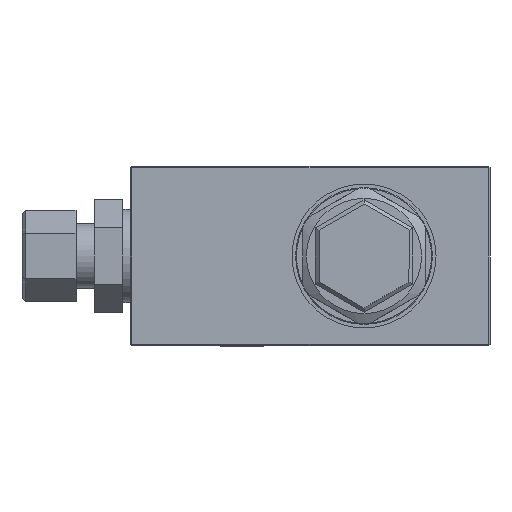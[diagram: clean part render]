
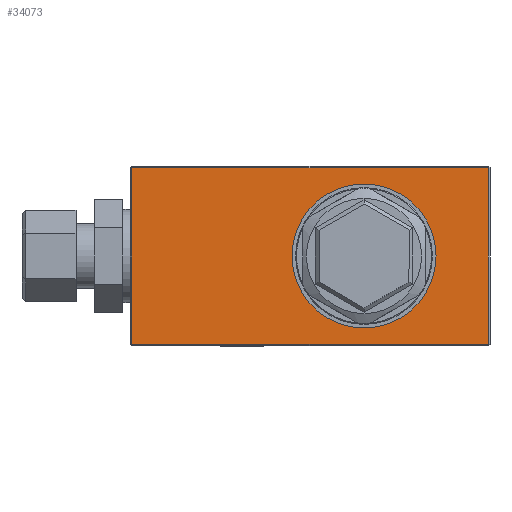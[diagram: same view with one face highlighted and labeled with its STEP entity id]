
A CAD part, front view. The second image highlights one B-rep face of the part: STEP entity #34073.
In plain terms, the highlighted planar face has unit normal (0, -1, 0).
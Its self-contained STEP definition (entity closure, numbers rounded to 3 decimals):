
#33546=CARTESIAN_POINT('',(85.,0.0,25.0));
#33547=VERTEX_POINT('',#33546);
#33548=CARTESIAN_POINT('',(65.,0.0,25.0));
#33549=DIRECTION('',(0.0,1.0,0.0));
#33550=DIRECTION('',(1.0,0.0,0.0));
#33551=AXIS2_PLACEMENT_3D('',#33548,#33549,#33550);
#33552=CIRCLE('',#33551,20.0);
#33553=EDGE_CURVE('',#33547,#33547,#33552,.T.);
#34031=CARTESIAN_POINT('',(100.,0.0,0.0));
#34032=DIRECTION('',(0.0,-1.0,0.0));
#34033=DIRECTION('',(0.0,0.0,-1.0));
#34034=AXIS2_PLACEMENT_3D('',#34031,#34032,#34033);
#34035=PLANE('',#34034);
#34036=CARTESIAN_POINT('',(0.5,0.0,0.5));
#34037=VERTEX_POINT('',#34036);
#34038=CARTESIAN_POINT('',(0.5,0.0,49.5));
#34039=VERTEX_POINT('',#34038);
#34040=CARTESIAN_POINT('',(0.5,0.0,0.5));
#34041=DIRECTION('',(0.0,0.0,1.0));
#34042=VECTOR('',#34041,49.0);
#34043=LINE('',#34040,#34042);
#34044=EDGE_CURVE('',#34037,#34039,#34043,.T.);
#34045=ORIENTED_EDGE('',*,*,#34044,.F.);
#34046=CARTESIAN_POINT('',(99.5,0.0,0.5));
#34047=VERTEX_POINT('',#34046);
#34048=CARTESIAN_POINT('',(99.5,0.0,0.5));
#34049=DIRECTION('',(-1.0,0.0,0.0));
#34050=VECTOR('',#34049,99.);
#34051=LINE('',#34048,#34050);
#34052=EDGE_CURVE('',#34047,#34037,#34051,.T.);
#34053=ORIENTED_EDGE('',*,*,#34052,.F.);
#34054=CARTESIAN_POINT('',(99.5,0.0,49.5));
#34055=VERTEX_POINT('',#34054);
#34056=CARTESIAN_POINT('',(99.5,0.0,49.5));
#34057=DIRECTION('',(0.0,0.0,-1.0));
#34058=VECTOR('',#34057,49.0);
#34059=LINE('',#34056,#34058);
#34060=EDGE_CURVE('',#34055,#34047,#34059,.T.);
#34061=ORIENTED_EDGE('',*,*,#34060,.F.);
#34062=CARTESIAN_POINT('',(0.5,0.0,49.5));
#34063=DIRECTION('',(1.0,0.0,0.0));
#34064=VECTOR('',#34063,99.);
#34065=LINE('',#34062,#34064);
#34066=EDGE_CURVE('',#34039,#34055,#34065,.T.);
#34067=ORIENTED_EDGE('',*,*,#34066,.F.);
#34068=EDGE_LOOP('',(#34045,#34053,#34061,#34067));
#34069=FACE_OUTER_BOUND('',#34068,.T.);
#34070=ORIENTED_EDGE('',*,*,#33553,.T.);
#34071=EDGE_LOOP('',(#34070));
#34072=FACE_BOUND('',#34071,.T.);
#34073=ADVANCED_FACE('',(#34069,#34072),#34035,.T.);
